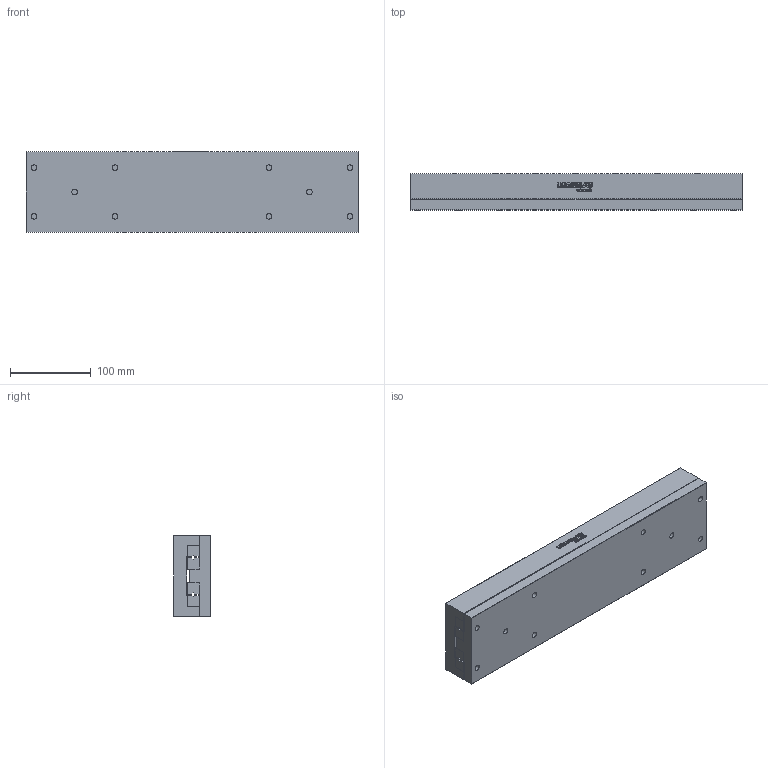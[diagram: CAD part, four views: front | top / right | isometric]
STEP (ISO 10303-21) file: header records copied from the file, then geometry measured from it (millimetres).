
FILE_DESCRIPTION(/* description */ ('STEP AP214'),/* implementation_level */ '2;1');
FILE_NAME(/* name */ 'NK 6-410-B(0)',/* time_stamp */ '2025-04-22T17:51:01+02:00',/* author */ ('License CC BY-ND 4.0'),/* organization */ ('CADENAS'),/* preprocessor_version */ 'ST-DEVELOPER v19.3',/* originating_system */ 'PARTsolutions',/* authorisation */ ' ');
FILE_SCHEMA (('AUTOMOTIVE_DESIGN {1 0 10303 214 3 1 1}'));
Length unit declared in the file: millimetre
Products named in the file (3): NK 6-410-B(0); NK 6-410-B_1; NK 6-410-B_2
Assembly tree (2 placements, depth 2):
  NK 6-410-B(0)
    NK 6-410-B_1
    NK 6-410-B_2
Bounding box: 410 x 45 x 100 mm (x, y, z)
Volume: 1764203.4 mm3; surface area: 289762.7 mm2
Topology: 2 solids, 2 shells, 643 faces, 1774 edges, 1160 vertices
Faces by surface type: cylinder 326, plane 289, cone 28
Full cylindrical faces by diameter (mm): 4.917 x14, 7 x10, 11 x10
Entity records: 20365 total; most frequent: DIRECTION 3684, CARTESIAN_POINT 3490, ORIENTED_EDGE 3396, EDGE_CURVE 1698, AXIS2_PLACEMENT_3D 1340, VERTEX_POINT 1146, LINE 1004, VECTOR 1004
